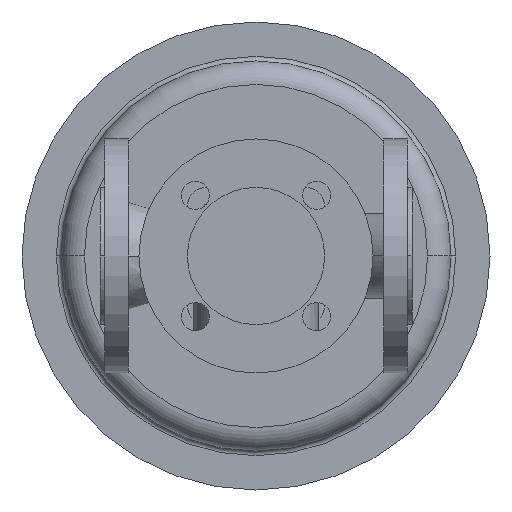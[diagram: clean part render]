
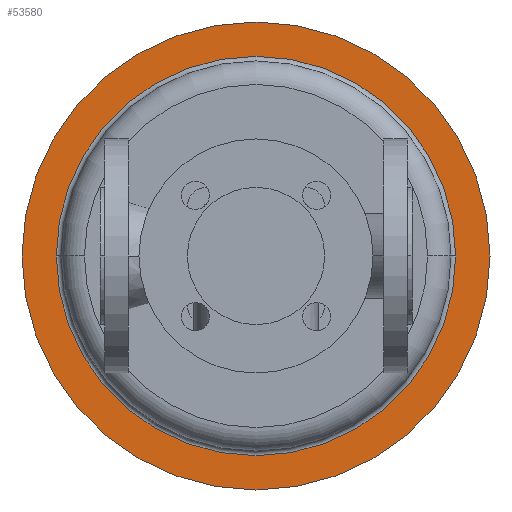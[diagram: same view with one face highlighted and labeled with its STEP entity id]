
A CAD part, front view. The second image highlights one B-rep face of the part: STEP entity #53580.
In plain terms, the highlighted planar face has unit normal (0, -1, 0).
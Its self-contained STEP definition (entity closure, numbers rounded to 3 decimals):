
#39750=CARTESIAN_POINT('',(-50.,452.3,0.));
#39760=VERTEX_POINT('',#39750);
#39790=CARTESIAN_POINT('',(100.,452.3,0.));
#39800=DIRECTION('',(0.,1.,0.));
#39810=DIRECTION('',(1.,0.,0.));
#39820=AXIS2_PLACEMENT_3D('',#39790,#39800,#39810);
#39830=CIRCLE('',#39820,150.);
#39840=CARTESIAN_POINT('',(250.,452.3,0.));
#39850=VERTEX_POINT('',#39840);
#39860=EDGE_CURVE('',#39850,#39760,#39830,.T.);
#40110=CARTESIAN_POINT('',(100.,452.3,0.));
#40120=DIRECTION('',(0.,1.,0.));
#40130=DIRECTION('',(1.,0.,0.));
#40140=AXIS2_PLACEMENT_3D('',#40110,#40120,#40130);
#40150=CIRCLE('',#40140,128.);
#40160=CARTESIAN_POINT('',(100.,452.3,-128.));
#40170=VERTEX_POINT('',#40160);
#40180=CARTESIAN_POINT('',(-28.,452.3,0.));
#40190=VERTEX_POINT('',#40180);
#40200=EDGE_CURVE('',#40170,#40190,#40150,.T.);
#40450=CARTESIAN_POINT('',(228.,452.3,0.));
#40460=VERTEX_POINT('',#40450);
#40490=EDGE_CURVE('',#40460,#40170,#40150,.T.);
#53420=CARTESIAN_POINT('',(239.,452.3,0.));
#53430=DIRECTION('',(0.,-1.,0.));
#53440=DIRECTION('',(-1.,0.,0.));
#53450=AXIS2_PLACEMENT_3D('',#53420,#53430,#53440);
#53460=PLANE('',#53450);
#53470=EDGE_CURVE('',#39760,#39850,#39830,.T.);
#53480=ORIENTED_EDGE('',*,*,#53470,.F.);
#53490=ORIENTED_EDGE('',*,*,#39860,.F.);
#53500=EDGE_LOOP('',(#53490,#53480));
#53510=FACE_OUTER_BOUND('',#53500,.T.);
#53520=EDGE_CURVE('',#40190,#40460,#40150,.T.);
#53530=ORIENTED_EDGE('',*,*,#53520,.T.);
#53540=ORIENTED_EDGE('',*,*,#40200,.T.);
#53550=ORIENTED_EDGE('',*,*,#40490,.T.);
#53560=EDGE_LOOP('',(#53550,#53540,#53530));
#53570=FACE_BOUND('',#53560,.T.);
#53580=ADVANCED_FACE('',(#53510,#53570),#53460,.T.);
